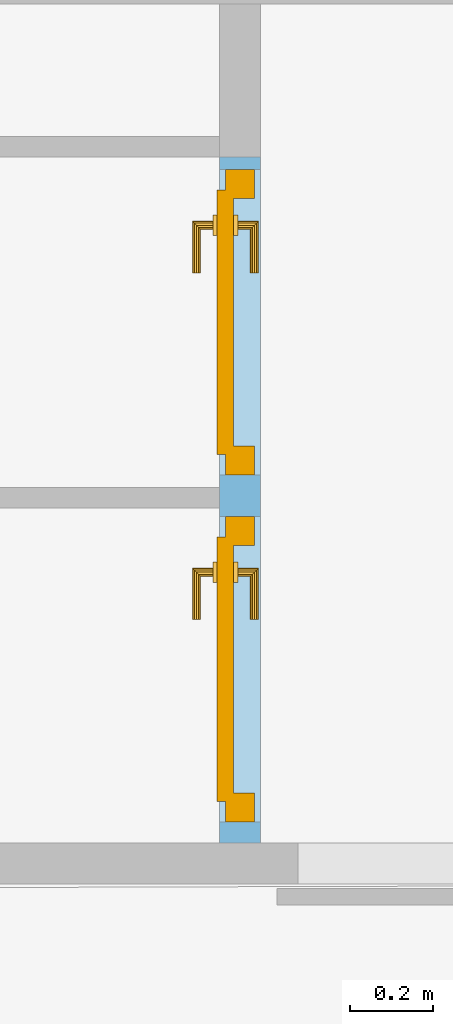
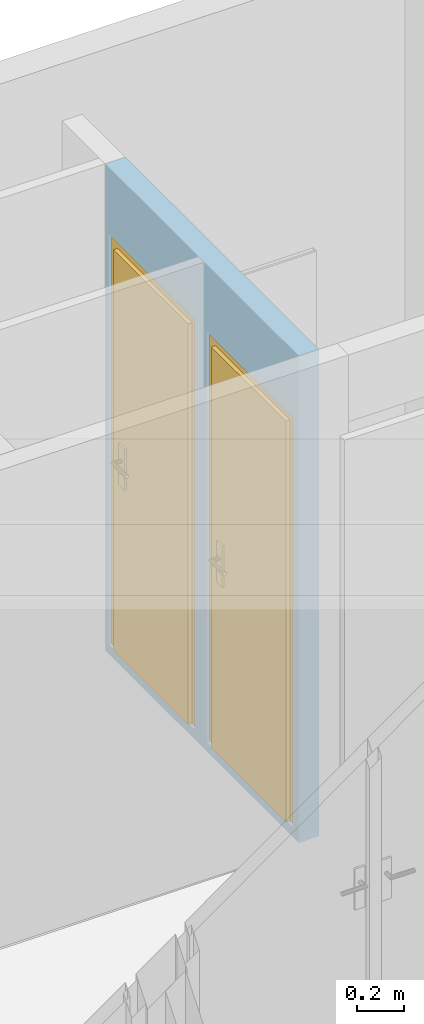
"""IFC4 building model written with IfcOpenShell, lengths in metres."""

from ifc_helpers import new_model, entity, si_unit, converted_unit, derived_unit, frame, frame_2d, origin, origin_with_axes, place, context, subcontext, project, spatial, polyline, rectangle, outline, extrude, faceted_brep, source, transform, mapped, material, layer, layer_set, layer_usage, element, fill, save


model = new_model("IFC4")

# Units and contexts
model_context = context("Model", 3, precision=1e-05, world=origin())
body_context = subcontext(model_context, "Body", "Model", "MODEL_VIEW")
ifc_project = project(units=[si_unit("LENGTHUNIT", "METRE"), si_unit("AREAUNIT", "SQUARE_METRE"), si_unit("VOLUMEUNIT", "CUBIC_METRE"), si_unit("MASSUNIT", "GRAM", prefix="KILO"), converted_unit("PLANEANGLEUNIT", "DEGREE", entity("IfcPlaneAngleMeasure", 0.0174532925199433), si_unit("PLANEANGLEUNIT", "RADIAN"), dimensions=[0, 0, 0, 0, 0, 0, 0]), derived_unit("THERMALTRANSMITTANCEUNIT", [(si_unit("POWERUNIT", "WATT"), 1), (si_unit("THERMODYNAMICTEMPERATUREUNIT", "KELVIN"), -1), (si_unit("LENGTHUNIT", "METRE"), -2)]), derived_unit("VOLUMETRICFLOWRATEUNIT", [(si_unit("LENGTHUNIT", "METRE"), 3), (converted_unit("TIMEUNIT", "hour", entity("IfcTimeMeasure", 3600.0), si_unit("TIMEUNIT", "SECOND"), dimensions=[0, 0, 1, 0, 0, 0, 0]), -1), (si_unit("LENGTHUNIT", "METRE"), -1)])], contexts=[model_context])

# Building, storeys
building_placement = place(None, origin())
building = spatial("IfcBuilding", under=ifc_project, at=building_placement, Name="HABITATGE PLURIFAMILIAR", CompositionType="ELEMENT")
storey_1_placement = place(building_placement, frame((0.0, 0.0, 3.35)))
storey_1 = spatial("IfcBuildingStorey", under=building, at=storey_1_placement, Name="PLANTA  ALTELL", CompositionType="ELEMENT", Elevation=3.35)
storey_2_placement = place(storey_1_placement, origin())
storey_2 = spatial("IfcBuildingStorey", under=storey_1, at=storey_2_placement, Name="NOU", CompositionType="PARTIAL")

# Wall, openings, doors
ifc_material = material()
ifc_layer = layer(ifc_material, 0.1)
ifc_layer_set = layer_set([ifc_layer])
ifc_layer_usage = layer_usage(ifc_layer_set, "AXIS2", "POSITIVE", 0.0)
wall_placement = place(storey_2_placement, frame((408.876931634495, 26.0491362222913, -0.05), z_axis=(0.0, 0.0, 1.0), x_axis=(0.0, 1.0, 0.0)))
wall = element("IfcWall", 1, at=wall_placement, inside=storey_2, material=ifc_layer_usage, Name="Evans PA", context=body_context, shape_type="SweptSolid", body=[
    extrude(rectangle(XDim=1.66045527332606, YDim=0.1, at=frame_2d((0.830227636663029, 0.05), x_axis=(1.0, 0.0))), origin_with_axes(), (0.0, 0.0, 1.0), 2.55),
])
opening_1_placement = place(wall_placement, frame((0.790385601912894, 0.1, 0.05), z_axis=(0.0, -1.0, 0.0), x_axis=(0.0, 0.0, 1.0)))
opening_1 = element("IfcOpeningElement", 2, at=opening_1_placement, cuts=wall, Name="Vano de puerta PA", ObjectType="Opening", context=body_context, shape_type="SweptSolid", body=[
    extrude(outline(polyline([(2.15, 0.74), (2.15, 0.0), (0.0, 0.0), (0.0, 0.74), (2.15, 0.74)])), origin_with_axes(), (0.0, 0.0, 1.0), 0.1),
])
opening_2_placement = place(wall_placement, frame((1.63038515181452, 0.1, 0.05), z_axis=(0.0, -1.0, 0.0), x_axis=(0.0, 0.0, 1.0)))
opening_2 = element("IfcOpeningElement", 3, at=opening_2_placement, cuts=wall, Name="Vano de puerta PA", ObjectType="Opening", context=body_context, shape_type="SweptSolid", body=[
    extrude(outline(polyline([(2.15, 0.74), (2.15, 0.0), (0.0, 0.0), (0.0, 0.74), (2.15, 0.74)])), origin_with_axes(), (0.0, 0.0, 1.0), 0.1),
])
shared_shape_1 = source(origin_with_axes(), body_context, "Body", "Brep", [
    faceted_brep([(0.739999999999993, 0.0700000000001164, 2.15), (0.669999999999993, 0.0700000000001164, 2.15), (0.669999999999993, 0.0700000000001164, 0.0), (0.739999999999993, 0.0700000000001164, 0.0), (0.739999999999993, 0.0, 0.0), (0.669999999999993, 0.0, 0.0), (0.669999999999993, 0.0, 2.15), (0.739999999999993, 0.0, 2.15)], [[[0, 1, 2, 3]], [[4, 5, 6, 7]], [[3, 4, 7, 0]], [[2, 5, 4, 3]], [[1, 6, 5, 2]], [[0, 7, 6, 1]]], orient=[[False], [False], [False], [False], [False], [False]]),
    faceted_brep([(0.0699999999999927, 0.0700000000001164, 2.15), (0.0, 0.0700000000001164, 2.15), (0.0, 0.0700000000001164, 0.0), (0.0699999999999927, 0.0700000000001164, 0.0), (0.0699999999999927, 0.0, 0.0), (0.0, 0.0, 0.0), (0.0, 0.0, 2.15), (0.0699999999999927, 0.0, 2.15)], [[[0, 1, 2, 3]], [[4, 5, 6, 7]], [[3, 4, 7, 0]], [[2, 5, 4, 3]], [[1, 6, 5, 2]], [[0, 7, 6, 1]]], orient=[[False], [False], [False], [False], [False], [False]]),
    faceted_brep([(0.669999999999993, 0.0700000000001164, 2.15), (0.0699999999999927, 0.0700000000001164, 2.15), (0.0699999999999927, 0.0700000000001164, 2.08), (0.669999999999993, 0.0700000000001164, 2.08), (0.669999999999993, 0.0, 2.08), (0.0699999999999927, 0.0, 2.08), (0.0699999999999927, 0.0, 2.15), (0.669999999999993, 0.0, 2.15)], [[[0, 1, 2, 3]], [[4, 5, 6, 7]], [[3, 4, 7, 0]], [[2, 5, 4, 3]], [[1, 6, 5, 2]], [[0, 7, 6, 1]]], orient=[[False], [False], [False], [False], [False], [False]]),
    faceted_brep([(0.689999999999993, 0.0900000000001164, 2.1), (0.0499999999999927, 0.0900000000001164, 2.1), (0.0499999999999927, 0.0900000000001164, 0.0), (0.689999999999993, 0.0900000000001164, 0.0), (0.689999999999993, 0.0500000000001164, 0.0), (0.0499999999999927, 0.0500000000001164, 0.0), (0.0499999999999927, 0.0500000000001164, 2.1), (0.689999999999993, 0.0500000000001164, 2.1)], [[[0, 1, 2, 3]], [[4, 5, 6, 7]], [[3, 4, 7, 0]], [[2, 5, 4, 3]], [[1, 6, 5, 2]], [[0, 7, 6, 1]]], orient=[[False], [False], [False], [False], [False], [False]]),
    faceted_brep([(0.629999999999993, 0.0500000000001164, 1.125), (0.579999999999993, 0.0500000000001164, 1.125), (0.579999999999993, 0.0500000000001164, 0.91), (0.629999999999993, 0.0500000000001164, 0.91), (0.629999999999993, 0.0400000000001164, 0.91), (0.579999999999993, 0.0400000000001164, 0.91), (0.579999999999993, 0.0400000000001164, 1.125), (0.629999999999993, 0.0400000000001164, 1.125)], [[[0, 1, 2, 3]], [[4, 5, 6, 7]], [[3, 4, 7, 0]], [[2, 5, 4, 3]], [[1, 6, 5, 2]], [[0, 7, 6, 1]]], orient=[[False], [False], [False], [False], [False], [False]]),
    faceted_brep([(0.604999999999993, 0.0400000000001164, 1.06), (0.599999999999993, 0.0400000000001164, 1.05866025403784), (0.596339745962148, 0.0400000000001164, 1.055), (0.594999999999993, 0.0400000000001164, 1.05), (0.596339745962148, 0.0400000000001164, 1.045), (0.599999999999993, 0.0400000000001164, 1.04133974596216), (0.604999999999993, 0.0400000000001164, 1.04), (0.609999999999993, 0.0400000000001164, 1.04133974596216), (0.613660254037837, 0.0400000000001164, 1.045), (0.614999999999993, 0.0400000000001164, 1.05), (0.613660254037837, 0.0400000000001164, 1.055), (0.609999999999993, 0.0400000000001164, 1.05866025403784), (0.609999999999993, -0.00499999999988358, 1.05866025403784), (0.604999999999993, 0.0, 1.06), (0.613660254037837, -0.00866025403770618, 1.055), (0.614999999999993, -0.00999999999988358, 1.05), (0.613660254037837, -0.00866025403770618, 1.045), (0.609999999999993, -0.00499999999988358, 1.04133974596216), (0.604999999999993, 0.0, 1.04), (0.599999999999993, 0.00500000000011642, 1.04133974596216), (0.596339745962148, 0.00866025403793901, 1.045), (0.594999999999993, 0.0100000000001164, 1.05), (0.596339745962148, 0.00866025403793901, 1.055), (0.599999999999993, 0.00500000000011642, 1.05866025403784), (0.489999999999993, 0.0, 1.06), (0.489999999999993, -0.00499999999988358, 1.05866025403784), (0.489999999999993, -0.00866025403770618, 1.055), (0.489999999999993, -0.00999999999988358, 1.05), (0.489999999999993, -0.00866025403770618, 1.045), (0.489999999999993, -0.00499999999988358, 1.04133974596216), (0.489999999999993, 0.0, 1.04), (0.489999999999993, 0.00500000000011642, 1.04133974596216), (0.489999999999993, 0.00866025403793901, 1.045), (0.489999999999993, 0.0100000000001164, 1.05), (0.489999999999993, 0.00866025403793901, 1.055), (0.489999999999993, 0.00500000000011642, 1.05866025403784)], [[[0, 1, 2, 3, 4, 5, 6, 7, 8, 9, 10, 11]], [[0, 11, 12, 13]], [[11, 10, 14, 12]], [[10, 9, 15, 14]], [[9, 8, 16, 15]], [[8, 7, 17, 16]], [[7, 6, 18, 17]], [[6, 5, 19, 18]], [[5, 4, 20, 19]], [[4, 3, 21, 20]], [[3, 2, 22, 21]], [[2, 1, 23, 22]], [[1, 0, 13, 23]], [[24, 25, 26, 27, 28, 29, 30, 31, 32, 33, 34, 35]], [[13, 12, 25, 24]], [[12, 14, 26, 25]], [[14, 15, 27, 26]], [[15, 16, 28, 27]], [[16, 17, 29, 28]], [[17, 18, 30, 29]], [[18, 19, 31, 30]], [[19, 20, 32, 31]], [[20, 21, 33, 32]], [[21, 22, 34, 33]], [[22, 23, 35, 34]], [[23, 13, 24, 35]]], orient=[[False], [False], [False], [False], [False], [False], [False], [False], [False], [False], [False], [False], [False], [False], [False], [False], [False], [False], [False], [False], [False], [False], [False], [False], [False], [False]]),
    faceted_brep([(0.629999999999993, 0.0900000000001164, 1.125), (0.629999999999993, 0.0900000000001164, 0.91), (0.579999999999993, 0.0900000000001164, 0.91), (0.579999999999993, 0.0900000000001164, 1.125), (0.629999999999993, 0.100000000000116, 0.91), (0.629999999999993, 0.100000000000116, 1.125), (0.579999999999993, 0.100000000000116, 1.125), (0.579999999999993, 0.100000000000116, 0.91)], [[[0, 1, 2, 3]], [[4, 5, 6, 7]], [[1, 0, 5, 4]], [[2, 1, 4, 7]], [[3, 2, 7, 6]], [[0, 3, 6, 5]]], orient=[[False], [False], [False], [False], [False], [False]]),
    faceted_brep([(0.604999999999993, 0.100000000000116, 1.06), (0.609999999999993, 0.100000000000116, 1.05866025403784), (0.613660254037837, 0.100000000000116, 1.055), (0.614999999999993, 0.100000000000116, 1.05), (0.613660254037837, 0.100000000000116, 1.045), (0.609999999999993, 0.100000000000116, 1.04133974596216), (0.604999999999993, 0.100000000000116, 1.04), (0.599999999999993, 0.100000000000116, 1.04133974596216), (0.596339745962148, 0.100000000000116, 1.045), (0.594999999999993, 0.100000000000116, 1.05), (0.596339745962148, 0.100000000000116, 1.055), (0.599999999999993, 0.100000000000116, 1.05866025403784), (0.604999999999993, 0.140000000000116, 1.06), (0.609999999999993, 0.145000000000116, 1.05866025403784), (0.613660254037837, 0.148660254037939, 1.055), (0.614999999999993, 0.150000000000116, 1.05), (0.613660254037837, 0.148660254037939, 1.045), (0.609999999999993, 0.145000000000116, 1.04133974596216), (0.604999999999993, 0.140000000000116, 1.04), (0.599999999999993, 0.135000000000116, 1.04133974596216), (0.596339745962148, 0.131339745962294, 1.045), (0.594999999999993, 0.130000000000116, 1.05), (0.596339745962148, 0.131339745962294, 1.055), (0.599999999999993, 0.135000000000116, 1.05866025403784), (0.489999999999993, 0.140000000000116, 1.06), (0.489999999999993, 0.135000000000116, 1.05866025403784), (0.489999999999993, 0.131339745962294, 1.055), (0.489999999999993, 0.130000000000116, 1.05), (0.489999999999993, 0.131339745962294, 1.045), (0.489999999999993, 0.135000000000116, 1.04133974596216), (0.489999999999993, 0.140000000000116, 1.04), (0.489999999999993, 0.145000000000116, 1.04133974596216), (0.489999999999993, 0.148660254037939, 1.045), (0.489999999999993, 0.150000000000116, 1.05), (0.489999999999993, 0.148660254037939, 1.055), (0.489999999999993, 0.145000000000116, 1.05866025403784)], [[[0, 1, 2, 3, 4, 5, 6, 7, 8, 9, 10, 11]], [[0, 12, 13, 1]], [[1, 13, 14, 2]], [[2, 14, 15, 3]], [[3, 15, 16, 4]], [[4, 16, 17, 5]], [[5, 17, 18, 6]], [[6, 18, 19, 7]], [[7, 19, 20, 8]], [[8, 20, 21, 9]], [[9, 21, 22, 10]], [[10, 22, 23, 11]], [[11, 23, 12, 0]], [[24, 25, 26, 27, 28, 29, 30, 31, 32, 33, 34, 35]], [[12, 24, 35, 13]], [[13, 35, 34, 14]], [[14, 34, 33, 15]], [[15, 33, 32, 16]], [[16, 32, 31, 17]], [[17, 31, 30, 18]], [[18, 30, 29, 19]], [[19, 29, 28, 20]], [[20, 28, 27, 21]], [[21, 27, 26, 22]], [[22, 26, 25, 23]], [[23, 25, 24, 12]]], orient=[[False], [False], [False], [False], [False], [False], [False], [False], [False], [False], [False], [False], [False], [False], [False], [False], [False], [False], [False], [False], [False], [False], [False], [False], [False], [False]]),
])
door_1_placement = place(opening_1_placement, frame((0.0, 0.74, 0.085), z_axis=(1.0, 0.0, 0.0), x_axis=(0.0, -1.0, 0.0)))
door_1 = element("IfcDoor", 4, at=door_1_placement, inside=storey_2, Name="Porta PA", OperationType="USERDEFINED", OverallHeight=2.15, OverallWidth=0.74, PredefinedType="DOOR", context=body_context, shape_type="MappedRepresentation", body=[
    mapped(shared_shape_1, transform((0.0, 0.0, 0.0), x_axis=(1.0, 0.0, 0.0), y_axis=(0.0, 1.0, 0.0), z_axis=(0.0, 0.0, 1.0), scale=1.0)),
])
fill(opening_1, door_1)
shared_shape_2 = source(origin_with_axes(), body_context, "Body", "Brep", [
    faceted_brep([(0.739999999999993, 0.0700000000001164, 2.15), (0.669999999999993, 0.0700000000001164, 2.15), (0.669999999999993, 0.0700000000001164, 0.0), (0.739999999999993, 0.0700000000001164, 0.0), (0.739999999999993, 0.0, 0.0), (0.669999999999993, 0.0, 0.0), (0.669999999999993, 0.0, 2.15), (0.739999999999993, 0.0, 2.15)], [[[0, 1, 2, 3]], [[4, 5, 6, 7]], [[3, 4, 7, 0]], [[2, 5, 4, 3]], [[1, 6, 5, 2]], [[0, 7, 6, 1]]], orient=[[False], [False], [False], [False], [False], [False]]),
    faceted_brep([(0.0699999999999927, 0.0700000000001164, 2.15), (0.0, 0.0700000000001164, 2.15), (0.0, 0.0700000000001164, 0.0), (0.0699999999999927, 0.0700000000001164, 0.0), (0.0699999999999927, 0.0, 0.0), (0.0, 0.0, 0.0), (0.0, 0.0, 2.15), (0.0699999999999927, 0.0, 2.15)], [[[0, 1, 2, 3]], [[4, 5, 6, 7]], [[3, 4, 7, 0]], [[2, 5, 4, 3]], [[1, 6, 5, 2]], [[0, 7, 6, 1]]], orient=[[False], [False], [False], [False], [False], [False]]),
    faceted_brep([(0.669999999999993, 0.0700000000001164, 2.15), (0.0699999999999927, 0.0700000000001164, 2.15), (0.0699999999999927, 0.0700000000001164, 2.08), (0.669999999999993, 0.0700000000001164, 2.08), (0.669999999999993, 0.0, 2.08), (0.0699999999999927, 0.0, 2.08), (0.0699999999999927, 0.0, 2.15), (0.669999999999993, 0.0, 2.15)], [[[0, 1, 2, 3]], [[4, 5, 6, 7]], [[3, 4, 7, 0]], [[2, 5, 4, 3]], [[1, 6, 5, 2]], [[0, 7, 6, 1]]], orient=[[False], [False], [False], [False], [False], [False]]),
    faceted_brep([(0.689999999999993, 0.0900000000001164, 2.1), (0.0499999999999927, 0.0900000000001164, 2.1), (0.0499999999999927, 0.0900000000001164, 0.0), (0.689999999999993, 0.0900000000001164, 0.0), (0.689999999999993, 0.0500000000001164, 0.0), (0.0499999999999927, 0.0500000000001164, 0.0), (0.0499999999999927, 0.0500000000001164, 2.1), (0.689999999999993, 0.0500000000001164, 2.1)], [[[0, 1, 2, 3]], [[4, 5, 6, 7]], [[3, 4, 7, 0]], [[2, 5, 4, 3]], [[1, 6, 5, 2]], [[0, 7, 6, 1]]], orient=[[False], [False], [False], [False], [False], [False]]),
    faceted_brep([(0.629999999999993, 0.0500000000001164, 1.125), (0.579999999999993, 0.0500000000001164, 1.125), (0.579999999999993, 0.0500000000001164, 0.91), (0.629999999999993, 0.0500000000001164, 0.91), (0.629999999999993, 0.0400000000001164, 0.91), (0.579999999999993, 0.0400000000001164, 0.91), (0.579999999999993, 0.0400000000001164, 1.125), (0.629999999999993, 0.0400000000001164, 1.125)], [[[0, 1, 2, 3]], [[4, 5, 6, 7]], [[3, 4, 7, 0]], [[2, 5, 4, 3]], [[1, 6, 5, 2]], [[0, 7, 6, 1]]], orient=[[False], [False], [False], [False], [False], [False]]),
    faceted_brep([(0.604999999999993, 0.0400000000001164, 1.06), (0.599999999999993, 0.0400000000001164, 1.05866025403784), (0.596339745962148, 0.0400000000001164, 1.055), (0.594999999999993, 0.0400000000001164, 1.05), (0.596339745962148, 0.0400000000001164, 1.045), (0.599999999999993, 0.0400000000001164, 1.04133974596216), (0.604999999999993, 0.0400000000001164, 1.04), (0.609999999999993, 0.0400000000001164, 1.04133974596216), (0.613660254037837, 0.0400000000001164, 1.045), (0.614999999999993, 0.0400000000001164, 1.05), (0.613660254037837, 0.0400000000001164, 1.055), (0.609999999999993, 0.0400000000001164, 1.05866025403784), (0.609999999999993, -0.00499999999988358, 1.05866025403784), (0.604999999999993, 0.0, 1.06), (0.613660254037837, -0.00866025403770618, 1.055), (0.614999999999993, -0.00999999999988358, 1.05), (0.613660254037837, -0.00866025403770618, 1.045), (0.609999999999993, -0.00499999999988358, 1.04133974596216), (0.604999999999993, 0.0, 1.04), (0.599999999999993, 0.00500000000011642, 1.04133974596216), (0.596339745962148, 0.00866025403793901, 1.045), (0.594999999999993, 0.0100000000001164, 1.05), (0.596339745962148, 0.00866025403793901, 1.055), (0.599999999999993, 0.00500000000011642, 1.05866025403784), (0.489999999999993, 0.0, 1.06), (0.489999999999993, -0.00499999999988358, 1.05866025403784), (0.489999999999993, -0.00866025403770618, 1.055), (0.489999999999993, -0.00999999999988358, 1.05), (0.489999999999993, -0.00866025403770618, 1.045), (0.489999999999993, -0.00499999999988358, 1.04133974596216), (0.489999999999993, 0.0, 1.04), (0.489999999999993, 0.00500000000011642, 1.04133974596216), (0.489999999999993, 0.00866025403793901, 1.045), (0.489999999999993, 0.0100000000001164, 1.05), (0.489999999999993, 0.00866025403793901, 1.055), (0.489999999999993, 0.00500000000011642, 1.05866025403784)], [[[0, 1, 2, 3, 4, 5, 6, 7, 8, 9, 10, 11]], [[0, 11, 12, 13]], [[11, 10, 14, 12]], [[10, 9, 15, 14]], [[9, 8, 16, 15]], [[8, 7, 17, 16]], [[7, 6, 18, 17]], [[6, 5, 19, 18]], [[5, 4, 20, 19]], [[4, 3, 21, 20]], [[3, 2, 22, 21]], [[2, 1, 23, 22]], [[1, 0, 13, 23]], [[24, 25, 26, 27, 28, 29, 30, 31, 32, 33, 34, 35]], [[13, 12, 25, 24]], [[12, 14, 26, 25]], [[14, 15, 27, 26]], [[15, 16, 28, 27]], [[16, 17, 29, 28]], [[17, 18, 30, 29]], [[18, 19, 31, 30]], [[19, 20, 32, 31]], [[20, 21, 33, 32]], [[21, 22, 34, 33]], [[22, 23, 35, 34]], [[23, 13, 24, 35]]], orient=[[False], [False], [False], [False], [False], [False], [False], [False], [False], [False], [False], [False], [False], [False], [False], [False], [False], [False], [False], [False], [False], [False], [False], [False], [False], [False]]),
    faceted_brep([(0.629999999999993, 0.0900000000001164, 1.125), (0.629999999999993, 0.0900000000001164, 0.91), (0.579999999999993, 0.0900000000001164, 0.91), (0.579999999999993, 0.0900000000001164, 1.125), (0.629999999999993, 0.100000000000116, 0.91), (0.629999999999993, 0.100000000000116, 1.125), (0.579999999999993, 0.100000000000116, 1.125), (0.579999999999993, 0.100000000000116, 0.91)], [[[0, 1, 2, 3]], [[4, 5, 6, 7]], [[1, 0, 5, 4]], [[2, 1, 4, 7]], [[3, 2, 7, 6]], [[0, 3, 6, 5]]], orient=[[False], [False], [False], [False], [False], [False]]),
    faceted_brep([(0.604999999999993, 0.100000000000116, 1.06), (0.609999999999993, 0.100000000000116, 1.05866025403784), (0.613660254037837, 0.100000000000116, 1.055), (0.614999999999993, 0.100000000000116, 1.05), (0.613660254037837, 0.100000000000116, 1.045), (0.609999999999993, 0.100000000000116, 1.04133974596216), (0.604999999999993, 0.100000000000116, 1.04), (0.599999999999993, 0.100000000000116, 1.04133974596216), (0.596339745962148, 0.100000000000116, 1.045), (0.594999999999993, 0.100000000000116, 1.05), (0.596339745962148, 0.100000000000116, 1.055), (0.599999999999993, 0.100000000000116, 1.05866025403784), (0.604999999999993, 0.140000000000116, 1.06), (0.609999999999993, 0.145000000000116, 1.05866025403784), (0.613660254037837, 0.148660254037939, 1.055), (0.614999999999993, 0.150000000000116, 1.05), (0.613660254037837, 0.148660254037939, 1.045), (0.609999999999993, 0.145000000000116, 1.04133974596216), (0.604999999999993, 0.140000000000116, 1.04), (0.599999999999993, 0.135000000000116, 1.04133974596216), (0.596339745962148, 0.131339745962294, 1.045), (0.594999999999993, 0.130000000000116, 1.05), (0.596339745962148, 0.131339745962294, 1.055), (0.599999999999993, 0.135000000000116, 1.05866025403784), (0.489999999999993, 0.140000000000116, 1.06), (0.489999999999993, 0.135000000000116, 1.05866025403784), (0.489999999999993, 0.131339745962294, 1.055), (0.489999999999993, 0.130000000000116, 1.05), (0.489999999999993, 0.131339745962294, 1.045), (0.489999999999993, 0.135000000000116, 1.04133974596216), (0.489999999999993, 0.140000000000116, 1.04), (0.489999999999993, 0.145000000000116, 1.04133974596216), (0.489999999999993, 0.148660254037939, 1.045), (0.489999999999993, 0.150000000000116, 1.05), (0.489999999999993, 0.148660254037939, 1.055), (0.489999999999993, 0.145000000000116, 1.05866025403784)], [[[0, 1, 2, 3, 4, 5, 6, 7, 8, 9, 10, 11]], [[0, 12, 13, 1]], [[1, 13, 14, 2]], [[2, 14, 15, 3]], [[3, 15, 16, 4]], [[4, 16, 17, 5]], [[5, 17, 18, 6]], [[6, 18, 19, 7]], [[7, 19, 20, 8]], [[8, 20, 21, 9]], [[9, 21, 22, 10]], [[10, 22, 23, 11]], [[11, 23, 12, 0]], [[24, 25, 26, 27, 28, 29, 30, 31, 32, 33, 34, 35]], [[12, 24, 35, 13]], [[13, 35, 34, 14]], [[14, 34, 33, 15]], [[15, 33, 32, 16]], [[16, 32, 31, 17]], [[17, 31, 30, 18]], [[18, 30, 29, 19]], [[19, 29, 28, 20]], [[20, 28, 27, 21]], [[21, 27, 26, 22]], [[22, 26, 25, 23]], [[23, 25, 24, 12]]], orient=[[False], [False], [False], [False], [False], [False], [False], [False], [False], [False], [False], [False], [False], [False], [False], [False], [False], [False], [False], [False], [False], [False], [False], [False], [False], [False]]),
])
door_2_placement = place(opening_2_placement, frame((0.0, 0.74, 0.085), z_axis=(1.0, 0.0, 0.0), x_axis=(0.0, -1.0, 0.0)))
door_2 = element("IfcDoor", 5, at=door_2_placement, inside=storey_2, Name="Porta PA", OperationType="USERDEFINED", OverallHeight=2.15, OverallWidth=0.74, PredefinedType="DOOR", context=body_context, shape_type="MappedRepresentation", body=[
    mapped(shared_shape_2, transform((0.0, 0.0, 0.0), x_axis=(1.0, 0.0, 0.0), y_axis=(0.0, 1.0, 0.0), z_axis=(0.0, 0.0, 1.0), scale=1.0)),
])
fill(opening_2, door_2)

save(model, "model.ifc")
